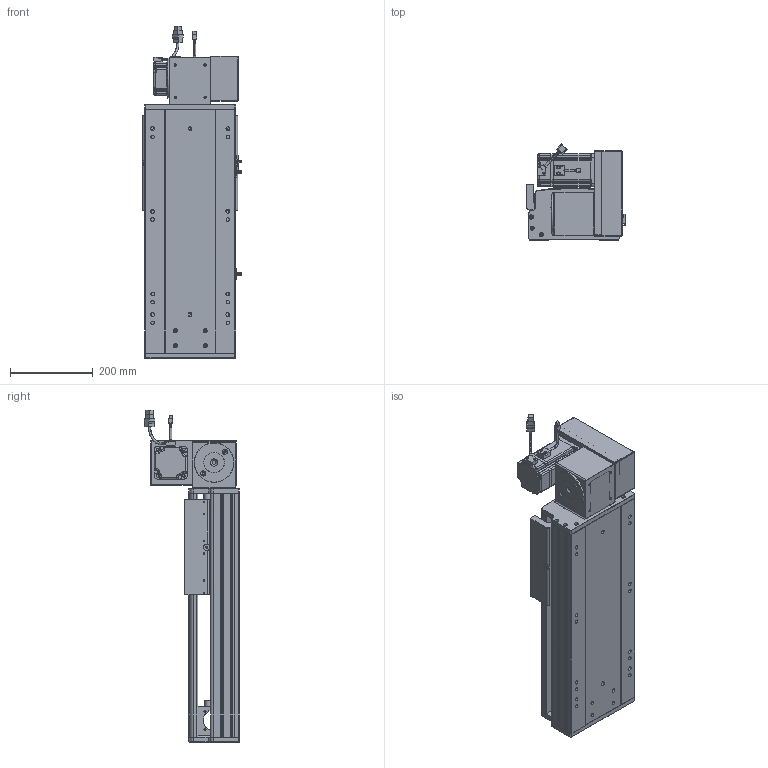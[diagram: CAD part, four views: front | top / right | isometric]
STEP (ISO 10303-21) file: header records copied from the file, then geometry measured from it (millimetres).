
FILE_DESCRIPTION (( 'STEP AP203' ), '1' );
FILE_NAME ('RY220-T-300-UR.SLDASM_250.step', '2022-07-25T08:42:26', ( '' ), ( '' ), 'SwSTEP 2.0', 'SolidWorks 2016', '' );
FILE_SCHEMA (( 'CONFIG_CONTROL_DESIGN' ));
Length unit declared in the file: millimetre
Products named in the file (14): RY220翋肮祭謫裔啣; 110A-T-肮祭謫釱傷裔; RY220-T菁釱-300_250; RY220翋肮祭謫釱; 滅袉蝶18-15; RY220-T-蛌殏萇儂假蚾啣(750W); RY220-T-300-UR.SLDASM_250; RY220-T-300-奻裔啣_250; RY220-俋离672覜茼んえ; 覜茼ん672; RY220-同步轮副支撑座6304×2; RY220圉猾敕々湍臏賑輸; 怢湛750W_ECMA-CX0807ES; RY220-T-湍謫欶(鍼踢)
Assembly tree (18 placements, depth 2):
  RY220-T-300-UR.SLDASM_250
    RY220-T菁釱-300_250
    RY220翋肮祭謫釱
    覜茼ん672  x3
    RY220圉猾敕々湍臏賑輸
    RY220-T-300-奻裔啣_250
    RY220-俋离672覜茼んえ
    滅袉蝶18-15  x3
    RY220翋肮祭謫裔啣  x2
    110A-T-肮祭謫釱傷裔
    怢湛750W_ECMA-CX0807ES
    RY220-T-湍謫欶(鍼踢)
    RY220-T-蛌殏萇儂假蚾啣(750W)
    RY220-同步轮副支撑座6304×2
Bounding box: 238.7 x 231.74 x 803.27 mm (x, y, z)
Volume: 7403471.8 mm3; surface area: 1998790.1 mm2
Topology: 19 solids, 19 shells, 2478 faces, 6831 edges, 4364 vertices
Faces by surface type: cylinder 1130, plane 1069, cone 197, bspline 56, sphere 16, torus 10
Entity records: 82419 total; most frequent: CARTESIAN_POINT 23673, ORIENTED_EDGE 12250, DIRECTION 11440, EDGE_CURVE 6125, AXIS2_PLACEMENT_3D 4000, VERTEX_POINT 3988, VECTOR 3440, LINE 3440
